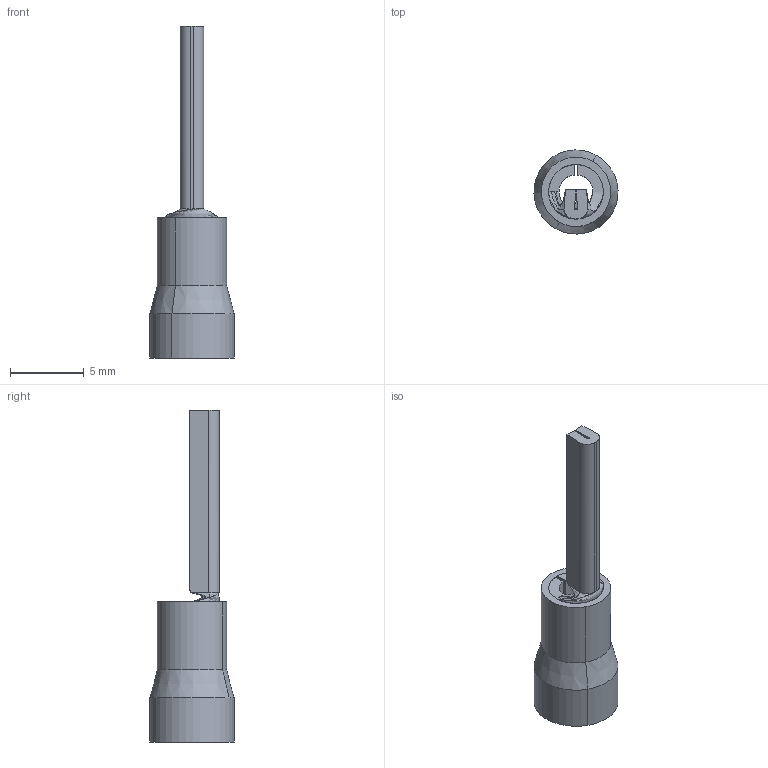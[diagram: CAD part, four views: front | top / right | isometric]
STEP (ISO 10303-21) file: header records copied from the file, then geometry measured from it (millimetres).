
FILE_DESCRIPTION (( 'STEP AP214' ), '1' );
FILE_NAME ('278019 OptiKit T-Shk-PVC-1,5-2,5.STEP', '2020-02-19T10:40:29', ( '' ), ( '' ), 'SwSTEP 2.0', 'SolidWorks 2018', '' );
FILE_SCHEMA (( 'AUTOMOTIVE_DESIGN' ));
Length unit declared in the file: millimetre
Products named in the file (3): Îïëåòêà 4,7; 阹糔 1,5-2,5; 278019 OptiKit T-Shk-PVC-1,5-2,5
Assembly tree (2 placements, depth 2):
  278019 OptiKit T-Shk-PVC-1,5-2,5
    阹糔 1,5-2,5
    Îïëåòêà 4,7
Bounding box: 5.7 x 5.7 x 22.5 mm (x, y, z)
Volume: 131.8 mm3; surface area: 520.5 mm2
Topology: 3 solids, 3 shells, 47 faces, 110 edges, 69 vertices
Faces by surface type: plane 15, cylinder 14, bspline 14, cone 4
Entity records: 1902 total; most frequent: CARTESIAN_POINT 788, ORIENTED_EDGE 220, DIRECTION 183, EDGE_CURVE 110, VERTEX_POINT 69, AXIS2_PLACEMENT_3D 66, LINE 51, VECTOR 51
